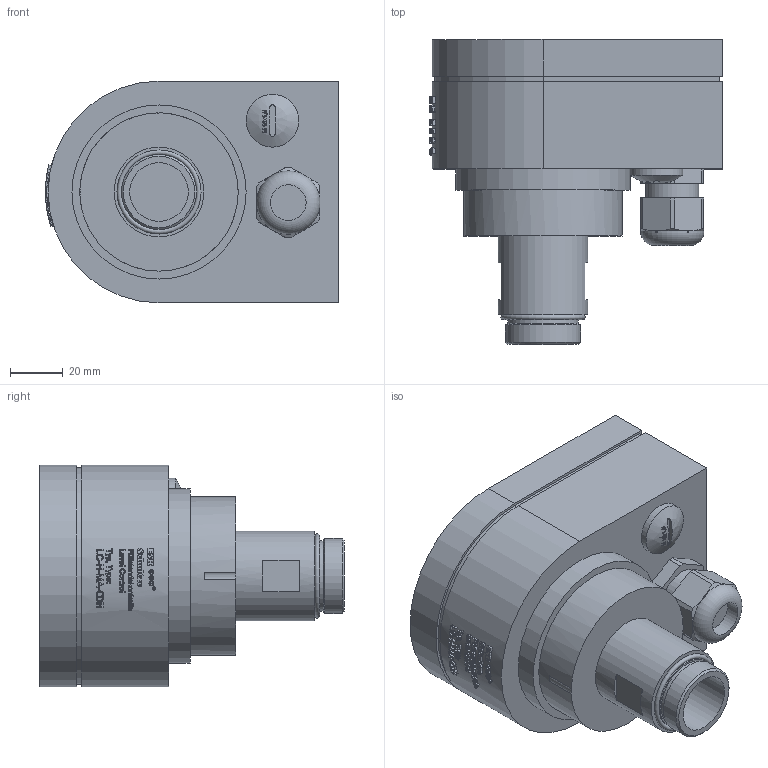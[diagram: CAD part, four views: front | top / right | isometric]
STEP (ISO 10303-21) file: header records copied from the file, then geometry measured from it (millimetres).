
FILE_DESCRIPTION(/* description */ (''),/* implementation_level */ '2;1');
FILE_NAME(/* name */ 'P:\ILC\LC-H-MA-CDH\LC-H-MA-CDH.stp',/* time_stamp */ '2020-06-05T12:57:22+02:00',/* author */ ('neufeld'),/* organization */ (''),/* preprocessor_version */ 'ST-DEVELOPER v17',/* originating_system */ 'Autodesk Inventor 2019',/* authorisation */ '');
FILE_SCHEMA (('AUTOMOTIVE_DESIGN { 1 0 10303 214 3 1 1 }'));
Products named in the file (1): Bauteil2
Bounding box: 111 x 115.5 x 84 mm (x, y, z)
Volume: 532511 mm3; surface area: 49430.3 mm2
Topology: 2 solids, 3 shells, 1186 faces, 3223 edges, 2157 vertices
Faces by surface type: bspline 565, plane 506, cylinder 104, cone 8, torus 3
Full cylindrical faces by diameter (mm): 10.9 x1, 13.5 x1, 20 x2, 22.2 x1, 26.7 x1, 28.1 x1, 28.45 x1, 34 x1, 60 x1, 66 x1
Entity records: 49180 total; most frequent: CARTESIAN_POINT 22608, ORIENTED_EDGE 6430, DIRECTION 3685, EDGE_CURVE 3215, VERTEX_POINT 2141, LINE 1577, VECTOR 1577, EDGE_LOOP 1294
